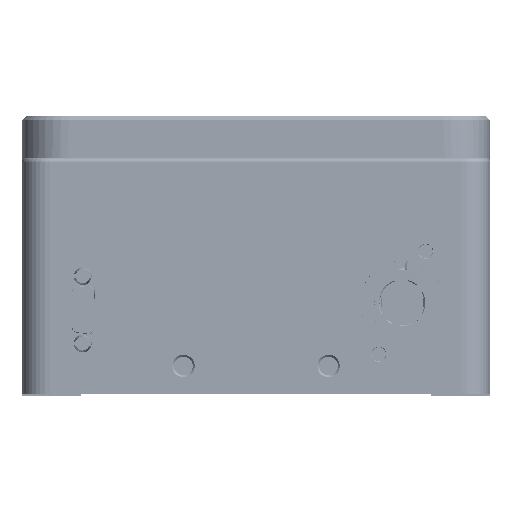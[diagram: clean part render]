
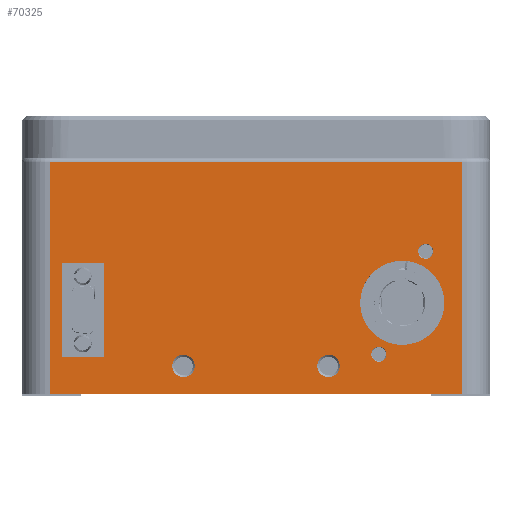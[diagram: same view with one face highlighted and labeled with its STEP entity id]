
A CAD part, left-side view. The second image highlights one B-rep face of the part: STEP entity #70325.
In plain terms, the highlighted planar face has unit normal (-1, 0, 0).
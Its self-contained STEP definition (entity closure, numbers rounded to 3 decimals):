
#3227=PLANE('',#76361);
#4604=FACE_BOUND('',#11848,.T.);
#4605=FACE_BOUND('',#11849,.T.);
#4606=FACE_BOUND('',#11850,.T.);
#4607=FACE_BOUND('',#11851,.T.);
#4608=FACE_BOUND('',#11852,.T.);
#4609=FACE_BOUND('',#11853,.T.);
#7313=FACE_OUTER_BOUND('',#11847,.T.);
#11847=EDGE_LOOP('',(#59154,#59155,#59156,#59157));
#11848=EDGE_LOOP('',(#59158));
#11849=EDGE_LOOP('',(#59159));
#11850=EDGE_LOOP('',(#59160));
#11851=EDGE_LOOP('',(#59161));
#11852=EDGE_LOOP('',(#59162));
#11853=EDGE_LOOP('',(#59163,#59164,#59165,#59166));
#18574=LINE('',#115605,#25326);
#18583=LINE('',#115637,#25335);
#18584=LINE('',#115640,#25336);
#18585=LINE('',#115641,#25337);
#18586=LINE('',#115654,#25338);
#18587=LINE('',#115656,#25339);
#18588=LINE('',#115658,#25340);
#18589=LINE('',#115659,#25341);
#25326=VECTOR('',#91806,10.);
#25335=VECTOR('',#91837,10.);
#25336=VECTOR('',#91840,10.);
#25337=VECTOR('',#91841,10.);
#25338=VECTOR('',#91852,10.);
#25339=VECTOR('',#91853,10.);
#25340=VECTOR('',#91854,10.);
#25341=VECTOR('',#91855,10.);
#29156=CIRCLE('',#76362,1.6);
#29157=CIRCLE('',#76363,1.6);
#29158=CIRCLE('',#76364,2.4);
#29159=CIRCLE('',#76365,2.4);
#29160=CIRCLE('',#76366,9.);
#34590=VERTEX_POINT('',#115602);
#34591=VERTEX_POINT('',#115604);
#34603=VERTEX_POINT('',#115635);
#34604=VERTEX_POINT('',#115639);
#34605=VERTEX_POINT('',#115642);
#34606=VERTEX_POINT('',#115644);
#34607=VERTEX_POINT('',#115646);
#34608=VERTEX_POINT('',#115648);
#34609=VERTEX_POINT('',#115650);
#34610=VERTEX_POINT('',#115652);
#34611=VERTEX_POINT('',#115653);
#34612=VERTEX_POINT('',#115655);
#34613=VERTEX_POINT('',#115657);
#43183=EDGE_CURVE('',#34591,#34590,#18574,.T.);
#43200=EDGE_CURVE('',#34591,#34603,#18583,.T.);
#43201=EDGE_CURVE('',#34603,#34604,#18584,.T.);
#43202=EDGE_CURVE('',#34604,#34590,#18585,.T.);
#43203=EDGE_CURVE('',#34605,#34605,#29156,.T.);
#43204=EDGE_CURVE('',#34606,#34606,#29157,.T.);
#43205=EDGE_CURVE('',#34607,#34607,#29158,.T.);
#43206=EDGE_CURVE('',#34608,#34608,#29159,.T.);
#43207=EDGE_CURVE('',#34609,#34609,#29160,.T.);
#43208=EDGE_CURVE('',#34610,#34611,#18586,.T.);
#43209=EDGE_CURVE('',#34611,#34612,#18587,.T.);
#43210=EDGE_CURVE('',#34612,#34613,#18588,.T.);
#43211=EDGE_CURVE('',#34613,#34610,#18589,.T.);
#59154=ORIENTED_EDGE('',*,*,#43201,.F.);
#59155=ORIENTED_EDGE('',*,*,#43200,.F.);
#59156=ORIENTED_EDGE('',*,*,#43183,.T.);
#59157=ORIENTED_EDGE('',*,*,#43202,.F.);
#59158=ORIENTED_EDGE('',*,*,#43203,.T.);
#59159=ORIENTED_EDGE('',*,*,#43204,.T.);
#59160=ORIENTED_EDGE('',*,*,#43205,.T.);
#59161=ORIENTED_EDGE('',*,*,#43206,.T.);
#59162=ORIENTED_EDGE('',*,*,#43207,.T.);
#59163=ORIENTED_EDGE('',*,*,#43208,.T.);
#59164=ORIENTED_EDGE('',*,*,#43209,.T.);
#59165=ORIENTED_EDGE('',*,*,#43210,.T.);
#59166=ORIENTED_EDGE('',*,*,#43211,.T.);
#70325=ADVANCED_FACE('',(#7313,#4604,#4605,#4606,#4607,#4608,#4609),#3227,
 .T.);
#76361=AXIS2_PLACEMENT_3D('',#115638,#91838,#91839);
#76362=AXIS2_PLACEMENT_3D('',#115643,#91842,#91843);
#76363=AXIS2_PLACEMENT_3D('',#115645,#91844,#91845);
#76364=AXIS2_PLACEMENT_3D('',#115647,#91846,#91847);
#76365=AXIS2_PLACEMENT_3D('',#115649,#91848,#91849);
#76366=AXIS2_PLACEMENT_3D('',#115651,#91850,#91851);
#91806=DIRECTION('',(0.,-1.,0.));
#91837=DIRECTION('',(0.,0.,1.));
#91838=DIRECTION('center_axis',(-1.,0.,0.));
#91839=DIRECTION('ref_axis',(0.,0.,
-1.));
#91840=DIRECTION('',(0.,-1.,0.));
#91841=DIRECTION('',(0.,0.,-1.));
#91842=DIRECTION('center_axis',(1.,0.,0.));
#91843=DIRECTION('ref_axis',(0.,0.,
-1.));
#91844=DIRECTION('center_axis',(1.,0.,0.));
#91845=DIRECTION('ref_axis',(0.,0.,
-1.));
#91846=DIRECTION('center_axis',(1.,0.,0.));
#91847=DIRECTION('ref_axis',(0.,0.,
-1.));
#91848=DIRECTION('center_axis',(1.,0.,0.));
#91849=DIRECTION('ref_axis',(0.,0.,
-1.));
#91850=DIRECTION('center_axis',(1.,0.,0.));
#91851=DIRECTION('ref_axis',(0.,0.,
-1.));
#91852=DIRECTION('',(0.,0.,1.));
#91853=DIRECTION('',(0.,-1.,0.));
#91854=DIRECTION('',(0.,0.,-1.));
#91855=DIRECTION('',(0.,1.,0.));
#115602=CARTESIAN_POINT('',(-224.5,-44.,0.5));
#115604=CARTESIAN_POINT('',(-224.5,44.,0.5));
#115605=CARTESIAN_POINT('',(-224.5,50.,0.5));
#115635=CARTESIAN_POINT('',(-224.5,44.,50.));
#115637=CARTESIAN_POINT('',(-224.5,44.,13.125));
#115638=CARTESIAN_POINT('Origin',(-224.5,0.,25.75));
#115639=CARTESIAN_POINT('',(-224.5,-44.,50.));
#115640=CARTESIAN_POINT('',(-224.5,25.,50.));
#115641=CARTESIAN_POINT('',(-224.5,-44.,38.375));
#115642=CARTESIAN_POINT('',(-224.5,-26.25,10.6));
#115643=CARTESIAN_POINT('Origin',(-224.5,-26.25,9.));
#115644=CARTESIAN_POINT('',(-224.5,-36.25,32.6));
#115645=CARTESIAN_POINT('Origin',(-224.5,-36.25,31.));
#115646=CARTESIAN_POINT('',(-224.5,-15.5,8.9));
#115647=CARTESIAN_POINT('Origin',(-224.5,-15.5,6.5));
#115648=CARTESIAN_POINT('',(-224.5,15.5,8.9));
#115649=CARTESIAN_POINT('Origin',(-224.5,15.5,6.5));
#115650=CARTESIAN_POINT('',(-224.5,-31.25,29.));
#115651=CARTESIAN_POINT('Origin',(-224.5,-31.25,20.));
#115652=CARTESIAN_POINT('',(-224.5,41.5,8.5));
#115653=CARTESIAN_POINT('',(-224.5,41.5,28.5));
#115654=CARTESIAN_POINT('',(-224.5,41.5,17.125));
#115655=CARTESIAN_POINT('',(-224.5,32.5,28.5));
#115656=CARTESIAN_POINT('',(-224.5,20.75,28.5));
#115657=CARTESIAN_POINT('',(-224.5,32.5,8.5));
#115658=CARTESIAN_POINT('',(-224.5,32.5,27.125));
#115659=CARTESIAN_POINT('',(-224.5,16.25,8.5));
